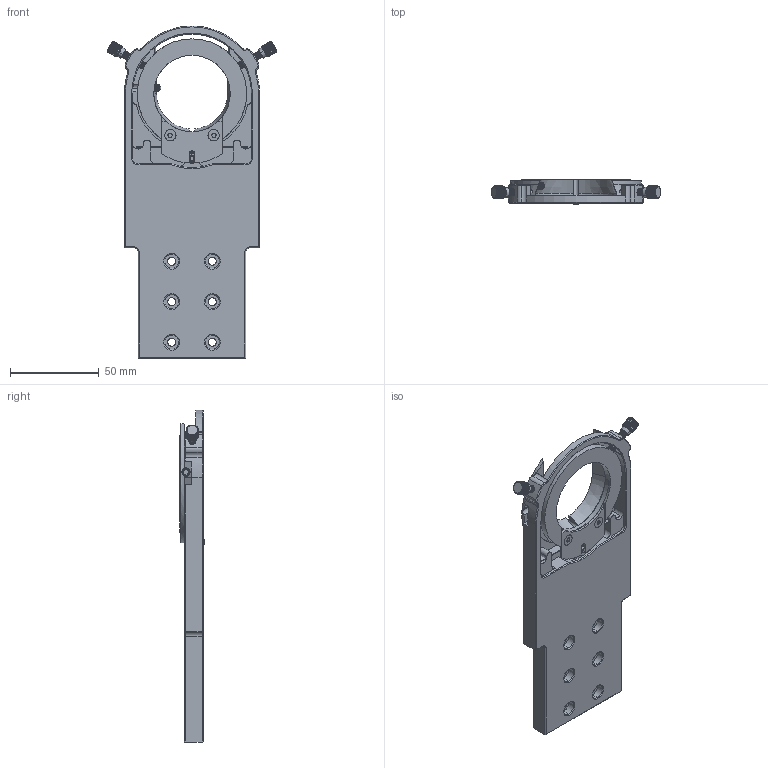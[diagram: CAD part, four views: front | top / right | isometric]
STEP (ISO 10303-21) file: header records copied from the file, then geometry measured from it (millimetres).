
FILE_DESCRIPTION((''),'2;1');
FILE_NAME('CMA95-OB_ASM','2026-07-04T14:34:15',('R&D'),(''),'CREO PARAMETRIC BY PTC INC, 2021063','CREO PARAMETRIC BY PTC INC, 2021063','');
FILE_SCHEMA(('CONFIG_CONTROL_DESIGN'));
Products named in the file (12): CMA95-OB-1; CMA95-OB-2; CMA95-OB-3; CMA95-OB-4; CMA95-OB-6; CMA95-OB-7; CMA95-OB-5; ISO14581-M3X4-4_8; CMA95-OB-8; CMA95-OB-9; CMA95-OB-10; CMA95-OB_ASM
Assembly tree (16 placements, depth 2):
  CMA95-OB_ASM
    CMA95-OB-1
    CMA95-OB-2
    CMA95-OB-3
    CMA95-OB-4
    CMA95-OB-6  x2
    CMA95-OB-7  x2
    CMA95-OB-5  x2
    ISO14581-M3X4-4_8  x2
    CMA95-OB-8  x2
    CMA95-OB-9
    CMA95-OB-10
Bounding box: 95.73 x 13.81 x 187.32 mm (x, y, z)
Volume: 103261.3 mm3; surface area: 40806.4 mm2
Topology: 15 solids, 15 shells, 1077 faces, 2911 edges, 1866 vertices
Faces by surface type: cylinder 478, plane 325, cone 126, bspline 119, extrusion 17, sphere 12
Entity records: 47879 total; most frequent: CARTESIAN_POINT 28894, ORIENTED_EDGE 4306, DIRECTION 3293, EDGE_CURVE 2153, VERTEX_POINT 1383, AXIS2_PLACEMENT_3D 1211, VECTOR 871, EDGE_LOOP 862
